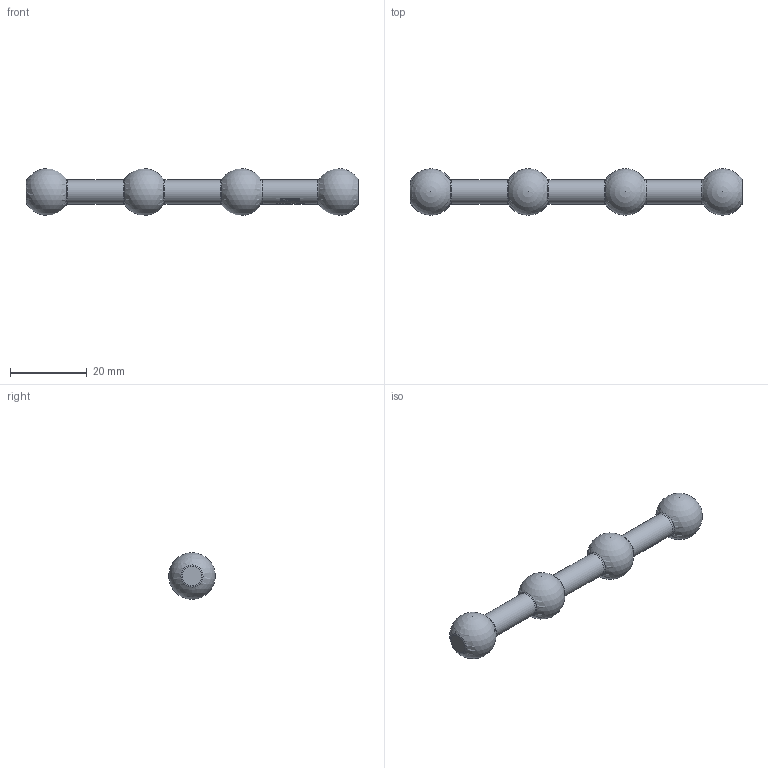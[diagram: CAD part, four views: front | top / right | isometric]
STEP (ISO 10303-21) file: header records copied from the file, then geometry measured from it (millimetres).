
FILE_DESCRIPTION(/* description */ ('JRPL 3IN HYPERLINK'),/* implementation_level */ '2;1');
FILE_NAME(/* name */ 'C:\Users\Shayne Riley\Documents\Vault\AD&D\Design Files\Pop-Link\JRPL Series Assemblies\JRPL-HLINK3IN.stp',/* time_stamp */ '2020-11-18T09:43:49-05:00',/* author */ ('Shayne Riley'),/* organization */ (''),/* preprocessor_version */ 'ST-DEVELOPER v18.1',/* originating_system */ 'Autodesk Inventor 2021',/* authorisation */ '');
FILE_SCHEMA (('AUTOMOTIVE_DESIGN { 1 0 10303 214 3 1 1 }'));
Length unit declared in the file: inch
Products named in the file (4): JRPL-HLINK3IN; 60267; 60266-JRPL-HYPERLINK POST; 60266-JRPL-HYPERLINK POST-ETCHED
Assembly tree (4 placements, depth 2):
  JRPL-HLINK3IN
    60267
    60266-JRPL-HYPERLINK POST  x2
    60266-JRPL-HYPERLINK POST-ETCHED
Bounding box: 86.7 x 12.1 x 12.19 mm (x, y, z)
Volume: 4828.9 mm3; surface area: 3427.5 mm2
Topology: 4 solids, 4 shells, 747 faces, 2003 edges, 1333 vertices
Faces by surface type: plane 467, bspline 169, cylinder 80, torus 16, cone 11, sphere 4
Full cylindrical faces by diameter (mm): 4.724 x3, 4.762 x4, 4.788 x3, 6.306 x3
Entity records: 26269 total; most frequent: CARTESIAN_POINT 8412, ORIENTED_EDGE 3908, DIRECTION 3279, EDGE_CURVE 1954, VERTEX_POINT 1307, AXIS2_PLACEMENT_3D 1094, LINE 1091, VECTOR 1091
